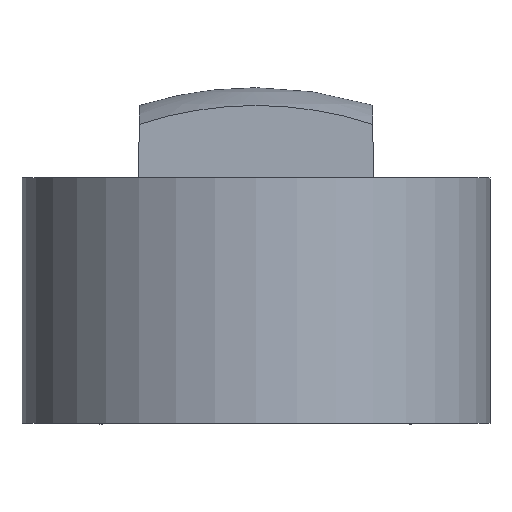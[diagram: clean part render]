
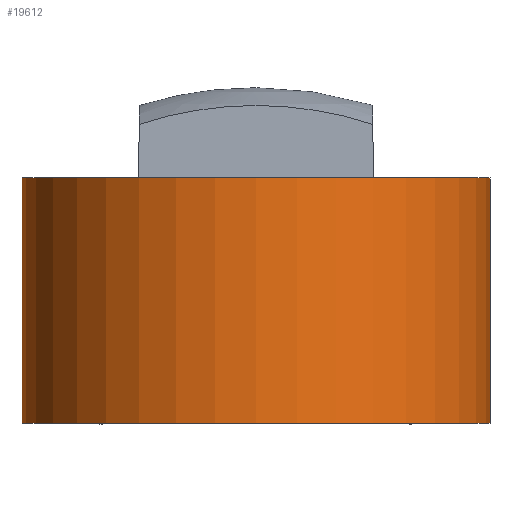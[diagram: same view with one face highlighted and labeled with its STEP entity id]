
A CAD part, front view. The second image highlights one B-rep face of the part: STEP entity #19612.
In plain terms, the highlighted cylindrical face has radius 10.5 mm (diameter 21 mm), a full revolution.
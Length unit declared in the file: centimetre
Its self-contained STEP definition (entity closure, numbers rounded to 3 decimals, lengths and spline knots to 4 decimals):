
#728=CYLINDRICAL_SURFACE($,#20662,1.05);
#950=FACE_BOUND($,#5692,.T.);
#4661=FACE_OUTER_BOUND($,#5691,.T.);
#5691=EDGE_LOOP($,(#12158));
#5692=EDGE_LOOP($,(#12159));
#6796=CIRCLE($,#20653,1.05);
#6800=CIRCLE($,#20661,1.05);
#7351=VERTEX_POINT($,#27066);
#7355=VERTEX_POINT($,#27078);
#9259=EDGE_CURVE($,#7351,#7351,#6796,.T.);
#9263=EDGE_CURVE($,#7355,#7355,#6800,.T.);
#12158=ORIENTED_EDGE($,*,*,#9263,.T.);
#12159=ORIENTED_EDGE($,*,*,#9259,.T.);
#19612=ADVANCED_FACE($,(#4661,#950),#728,.T.);
#20653=AXIS2_PLACEMENT_3D($,#27067,#22202,#22203);
#20661=AXIS2_PLACEMENT_3D($,#27079,#22218,#22219);
#20662=AXIS2_PLACEMENT_3D($,#27080,#22220,#22221);
#22202=DIRECTION('center_axis',(0.,0.,
-1.));
#22203=DIRECTION('ref_axis',(-1.,0.,0.));
#22218=DIRECTION('center_axis',(0.,0.,
1.));
#22219=DIRECTION('ref_axis',(-1.,0.,0.));
#22220=DIRECTION('center_axis',(0.,0.,
-1.));
#22221=DIRECTION('ref_axis',(-1.,0.,0.));
#27066=CARTESIAN_POINT('',(1.05,0.,0.69));
#27067=CARTESIAN_POINT('Origin',(0.,0.,0.69));
#27078=CARTESIAN_POINT('',(1.05,0.,-0.41));
#27079=CARTESIAN_POINT('Origin',(0.,0.,
-0.41));
#27080=CARTESIAN_POINT('Origin',(0.,0.,0.69));
